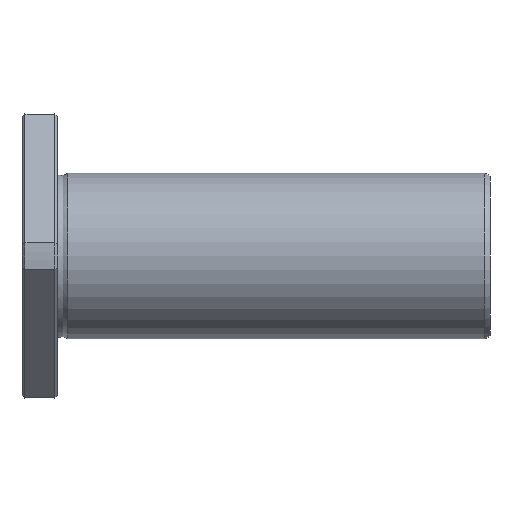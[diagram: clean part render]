
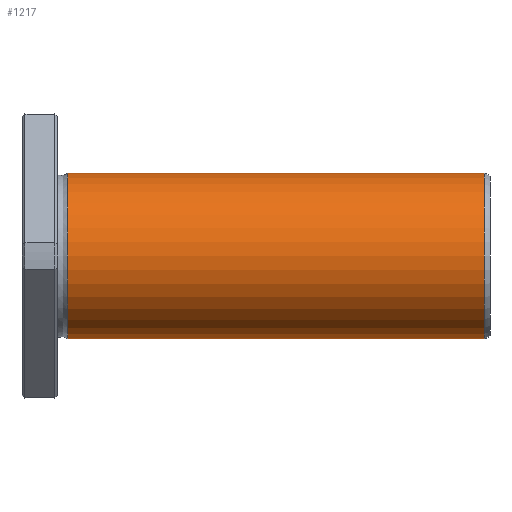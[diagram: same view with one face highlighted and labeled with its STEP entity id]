
A CAD part, front view. The second image highlights one B-rep face of the part: STEP entity #1217.
In plain terms, the highlighted cylindrical face has radius 14 mm (diameter 28 mm), a full revolution.
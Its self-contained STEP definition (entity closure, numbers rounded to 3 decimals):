
#1183=CARTESIAN_POINT('',(77.999,0.0,14.));
#1184=VERTEX_POINT('',#1183);
#1185=CARTESIAN_POINT('',(77.999,0.0,0.0));
#1186=DIRECTION('',(-1.0,0.0,0.0));
#1187=DIRECTION('',(0.0,0.0,1.0));
#1188=AXIS2_PLACEMENT_3D('',#1185,#1186,#1187);
#1189=CIRCLE('',#1188,14.);
#1190=EDGE_CURVE('',#1184,#1184,#1189,.T.);
#1198=CARTESIAN_POINT('',(42.859,0.0,0.0));
#1199=DIRECTION('',(-1.0,0.0,0.0));
#1200=DIRECTION('',(0.0,0.0,1.0));
#1201=AXIS2_PLACEMENT_3D('',#1198,#1199,#1200);
#1202=CYLINDRICAL_SURFACE('',#1201,14.);
#1203=CARTESIAN_POINT('',(7.72,0.0,14.));
#1204=VERTEX_POINT('',#1203);
#1205=CARTESIAN_POINT('',(7.72,0.0,0.0));
#1206=DIRECTION('',(-1.0,0.0,0.0));
#1207=DIRECTION('',(0.0,0.0,1.0));
#1208=AXIS2_PLACEMENT_3D('',#1205,#1206,#1207);
#1209=CIRCLE('',#1208,14.);
#1210=EDGE_CURVE('',#1204,#1204,#1209,.T.);
#1211=ORIENTED_EDGE('',*,*,#1210,.F.);
#1212=EDGE_LOOP('',(#1211));
#1213=FACE_OUTER_BOUND('',#1212,.T.);
#1214=ORIENTED_EDGE('',*,*,#1190,.T.);
#1215=EDGE_LOOP('',(#1214));
#1216=FACE_BOUND('',#1215,.T.);
#1217=ADVANCED_FACE('',(#1213,#1216),#1202,.T.);
